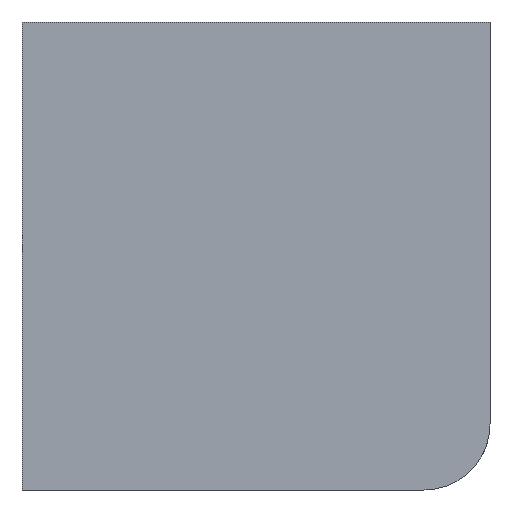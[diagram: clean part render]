
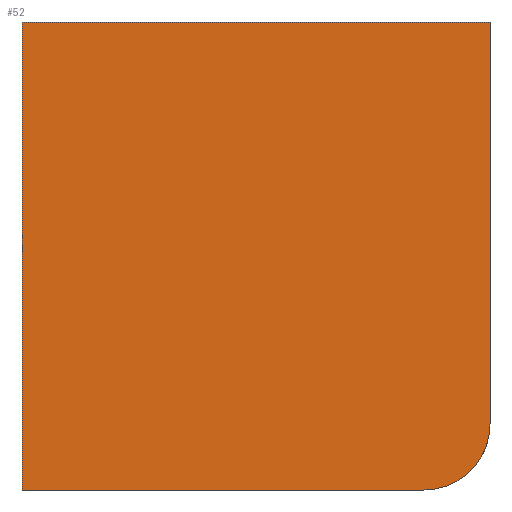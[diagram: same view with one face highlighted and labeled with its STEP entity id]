
A CAD part, front view. The second image highlights one B-rep face of the part: STEP entity #52.
In plain terms, the highlighted planar face has unit normal (0, -1, 0).
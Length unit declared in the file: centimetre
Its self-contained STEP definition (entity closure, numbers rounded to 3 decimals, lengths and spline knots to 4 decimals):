
#13 = VECTOR ( 'NONE', #719, 100. ) ;
#21 = VERTEX_POINT ( 'NONE', #187 ) ;
#30 = VERTEX_POINT ( 'NONE', #54 ) ;
#36 = EDGE_LOOP ( 'NONE', ( #264, #557, #767, #246, #837 ) ) ;
#47 = LINE ( 'NONE', #548, #123 ) ;
#52 = ADVANCED_FACE ( 'NONE', ( #633 ), #272, .F. ) ;
#54 = CARTESIAN_POINT ( 'NONE',  ( 0., 0., 1000. ) ) ;
#61 = DIRECTION ( 'NONE',  ( 0., -1., 0. ) ) ;
#86 = CARTESIAN_POINT ( 'NONE',  ( 0., 0., 0. ) ) ;
#103 = EDGE_CURVE ( 'NONE', #780, #21, #714, .T. ) ;
#109 = LINE ( 'NONE', #404, #13 ) ;
#123 = VECTOR ( 'NONE', #347, 100. ) ;
#149 = DIRECTION ( 'NONE',  ( 0., 1., 0. ) ) ;
#187 = CARTESIAN_POINT ( 'NONE',  ( 1000., 0., 141.1235 ) ) ;
#220 = CARTESIAN_POINT ( 'NONE',  ( 1000., 0., 1000. ) ) ;
#229 = DIRECTION ( 'NONE',  ( 0., 0., -1. ) ) ;
#243 = VECTOR ( 'NONE', #728, 100. ) ;
#246 = ORIENTED_EDGE ( 'NONE', *, *, #819, .F. ) ;
#264 = ORIENTED_EDGE ( 'NONE', *, *, #484, .T. ) ;
#272 = PLANE ( 'NONE',  #886 ) ;
#293 = VERTEX_POINT ( 'NONE', #220 ) ;
#347 = DIRECTION ( 'NONE',  ( 0., 0., -1. ) ) ;
#404 = CARTESIAN_POINT ( 'NONE',  ( 0., 0., 1000. ) ) ;
#435 = DIRECTION ( 'NONE',  ( 0., 0., 1. ) ) ;
#451 = CARTESIAN_POINT ( 'NONE',  ( 0., 0., 1000. ) ) ;
#484 = EDGE_CURVE ( 'NONE', #625, #780, #648, .T. ) ;
#489 = EDGE_CURVE ( 'NONE', #293, #21, #799, .T. ) ;
#548 = CARTESIAN_POINT ( 'NONE',  ( 0., 0., 1000. ) ) ;
#557 = ORIENTED_EDGE ( 'NONE', *, *, #103, .T. ) ;
#625 = VERTEX_POINT ( 'NONE', #86 ) ;
#633 = FACE_OUTER_BOUND ( 'NONE', #36, .T. ) ;
#648 = LINE ( 'NONE', #884, #243 ) ;
#666 = AXIS2_PLACEMENT_3D ( 'NONE', #736, #61, #435 ) ;
#714 = CIRCLE ( 'NONE', #666, 141.1235 ) ;
#719 = DIRECTION ( 'NONE',  ( 1., 0., 0. ) ) ;
#728 = DIRECTION ( 'NONE',  ( 1., 0., 0. ) ) ;
#731 = DIRECTION ( 'NONE',  ( 0., 0., 1. ) ) ;
#736 = CARTESIAN_POINT ( 'NONE',  ( 858.8765, 0., 141.1235 ) ) ;
#767 = ORIENTED_EDGE ( 'NONE', *, *, #489, .F. ) ;
#773 = CARTESIAN_POINT ( 'NONE',  ( 858.8765, 0., 0. ) ) ;
#780 = VERTEX_POINT ( 'NONE', #773 ) ;
#785 = VECTOR ( 'NONE', #229, 100. ) ;
#796 = CARTESIAN_POINT ( 'NONE',  ( 1000., 0., 1000. ) ) ;
#799 = LINE ( 'NONE', #796, #785 ) ;
#819 = EDGE_CURVE ( 'NONE', #30, #293, #109, .T. ) ;
#837 = ORIENTED_EDGE ( 'NONE', *, *, #880, .T. ) ;
#880 = EDGE_CURVE ( 'NONE', #30, #625, #47, .T. ) ;
#884 = CARTESIAN_POINT ( 'NONE',  ( 0., 0., 0. ) ) ;
#886 = AXIS2_PLACEMENT_3D ( 'NONE', #451, #149, #731 ) ;
